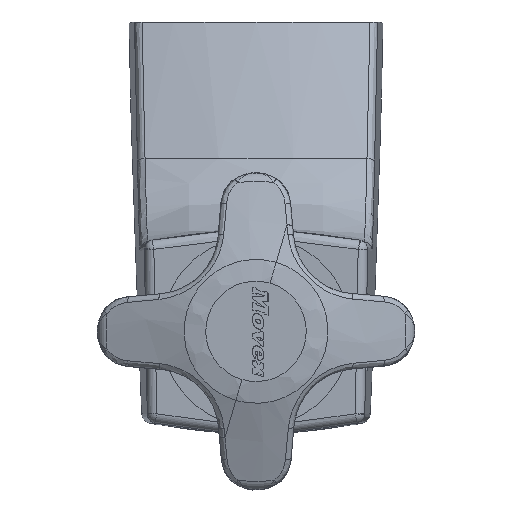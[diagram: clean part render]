
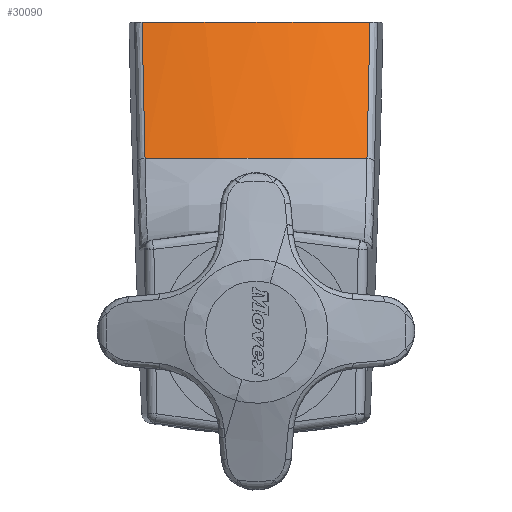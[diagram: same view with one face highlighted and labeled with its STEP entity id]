
A CAD part, top view. The second image highlights one B-rep face of the part: STEP entity #30090.
In plain terms, the highlighted free-form (B-spline) face has degree [4, 1] with [5, 2] control points.
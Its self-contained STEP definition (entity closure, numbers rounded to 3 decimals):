
#708 = VERTEX_POINT ( 'NONE', #31034 ) ;
#1320 = CARTESIAN_POINT ( 'NONE',  ( -9.053, 65., 99.659 ) ) ;
#2105 = CARTESIAN_POINT ( 'NONE',  ( 9.13, 43.548, 109.995 ) ) ;
#2285 = CARTESIAN_POINT ( 'NONE',  ( -9.13, 65., 99.991 ) ) ;
#2454 = CARTESIAN_POINT ( 'NONE',  ( -17.952, 43.548, 107.963 ) ) ;
#3842 = EDGE_CURVE ( 'NONE', #16605, #10255, #20461, .T. ) ;
#4290 = CARTESIAN_POINT ( 'NONE',  ( -17.952, 65., 97.96 ) ) ;
#4466 = CARTESIAN_POINT ( 'NONE',  ( 17.575, 47.839, 106.048 ) ) ;
#4561 = CARTESIAN_POINT ( 'NONE',  ( -3.567, 43.548, 110.401 ) ) ;
#4918 = B_SPLINE_CURVE_WITH_KNOTS ( 'NONE', 5,
 ( #26082, #10313, #9962, #4561, #12927, #7687 ),
 .UNSPECIFIED., .F., .F.,
 ( 6, 6 ),
 ( 0., 1. ),
 .UNSPECIFIED. ) ;
#7082 = CARTESIAN_POINT ( 'NONE',  ( 17.486, 43.548, 108.069 ) ) ;
#7687 = CARTESIAN_POINT ( 'NONE',  ( -17.486, 43.548, 108.069 ) ) ;
#8548 = CARTESIAN_POINT ( 'NONE',  ( 17.952, 65., 97.96 ) ) ;
#8995 = ORIENTED_EDGE ( 'NONE', *, *, #29090, .F. ) ;
#9194 = CARTESIAN_POINT ( 'NONE',  ( -17.638, 50.699, 104.7 ) ) ;
#9351 = CARTESIAN_POINT ( 'NONE',  ( -17.952, 65., 97.96 ) ) ;
#9962 = CARTESIAN_POINT ( 'NONE',  ( 3.606, 43.548, 110.398 ) ) ;
#10255 = VERTEX_POINT ( 'NONE', #9351 ) ;
#10313 = CARTESIAN_POINT ( 'NONE',  ( 10.674, 43.548, 109.595 ) ) ;
#10320 = CARTESIAN_POINT ( 'NONE',  ( 0., 43.548, 110.695 ) ) ;
#10822 = CARTESIAN_POINT ( 'NONE',  ( 9.053, 65., 99.659 ) ) ;
#11484 = ORIENTED_EDGE ( 'NONE', *, *, #29629, .T. ) ;
#11567 = ORIENTED_EDGE ( 'NONE', *, *, #19600, .T. ) ;
#11973 = CARTESIAN_POINT ( 'NONE',  ( -13.541, 65., 98.976 ) ) ;
#12730 = EDGE_CURVE ( 'NONE', #29410, #16605, #32322, .T. ) ;
#12927 = CARTESIAN_POINT ( 'NONE',  ( -10.649, 43.548, 109.601 ) ) ;
#14422 = CARTESIAN_POINT ( 'NONE',  ( -17.795, 57.85, 101.33 ) ) ;
#14981 = CARTESIAN_POINT ( 'NONE',  ( 17.952, 65., 97.96 ) ) ;
#15113 = CARTESIAN_POINT ( 'NONE',  ( 17.67, 52.129, 104.026 ) ) ;
#15212 = CARTESIAN_POINT ( 'NONE',  ( -17.952, 65., 97.96 ) ) ;
#15909 = CARTESIAN_POINT ( 'NONE',  ( 9.13, 65., 99.991 ) ) ;
#16254 = CARTESIAN_POINT ( 'NONE',  ( 13.541, 65., 98.976 ) ) ;
#16605 = VERTEX_POINT ( 'NONE', #28036 ) ;
#19600 = EDGE_CURVE ( 'NONE', #708, #29410, #26889, .T. ) ;
#19722 = CARTESIAN_POINT ( 'NONE',  ( -17.952, 65., 97.96 ) ) ;
#20461 = B_SPLINE_CURVE_WITH_KNOTS ( 'NONE', 4,
 ( #28299, #28122, #1320, #11973, #4290 ),
 .UNSPECIFIED., .F., .F.,
 ( 5, 5 ),
 ( 358.885, 376.991 ),
 .UNSPECIFIED. ) ;
#20652 = CARTESIAN_POINT ( 'NONE',  ( -17.486, 43.548, 108.069 ) ) ;
#21181 = FACE_OUTER_BOUND ( 'NONE', #21644, .T. ) ;
#21521 = CARTESIAN_POINT ( 'NONE',  ( 4.526, 65., 100. ) ) ;
#21644 = EDGE_LOOP ( 'NONE', ( #8995, #11567, #25640, #33303, #11484 ) ) ;
#22518 = CARTESIAN_POINT ( 'NONE',  ( -17.486, 43.548, 108.069 ) ) ;
#23257 = B_SPLINE_SURFACE_WITH_KNOTS ( 'NONE', 4, 1, ( 
 ( #2454, #15212 ),
 ( #31348, #2285 ),
 ( #10320, #26610 ),
 ( #2105, #15909 ),
 ( #28738, #31847 ) ),
 .UNSPECIFIED., .F., .F., .F.,
 ( 5, 5 ),
 ( 2, 2 ),
 ( 358.885, 395.097 ),
 ( 0., 1. ),
 .UNSPECIFIED. ) ;
#25307 = CARTESIAN_POINT ( 'NONE',  ( 17.952, 65., 97.96 ) ) ;
#25640 = ORIENTED_EDGE ( 'NONE', *, *, #12730, .T. ) ;
#25826 = CARTESIAN_POINT ( 'NONE',  ( 17.764, 56.419, 102.004 ) ) ;
#26082 = CARTESIAN_POINT ( 'NONE',  ( 17.486, 43.548, 108.069 ) ) ;
#26610 = CARTESIAN_POINT ( 'NONE',  ( 0., 65., 100.692 ) ) ;
#26616 = B_SPLINE_CURVE_WITH_KNOTS ( 'NONE', 3,
 ( #19722, #14422, #9194, #22518 ),
 .UNSPECIFIED., .F., .F.,
 ( 4, 4 ),
 ( 0., 33.512 ),
 .UNSPECIFIED. ) ;
#26889 = B_SPLINE_CURVE_WITH_KNOTS ( 'NONE', 5,
 ( #7082, #4466, #15113, #25826, #33850, #25307 ),
 .UNSPECIFIED., .F., .F.,
 ( 6, 6 ),
 ( 85.245, 108.964 ),
 .UNSPECIFIED. ) ;
#28036 = CARTESIAN_POINT ( 'NONE',  ( 0., 65., 100. ) ) ;
#28122 = CARTESIAN_POINT ( 'NONE',  ( -4.526, 65., 100. ) ) ;
#28299 = CARTESIAN_POINT ( 'NONE',  ( 0., 65., 100. ) ) ;
#28738 = CARTESIAN_POINT ( 'NONE',  ( 17.952, 43.548, 107.963 ) ) ;
#29090 = EDGE_CURVE ( 'NONE', #708, #32080, #4918, .T. ) ;
#29410 = VERTEX_POINT ( 'NONE', #14981 ) ;
#29629 = EDGE_CURVE ( 'NONE', #10255, #32080, #26616, .T. ) ;
#30090 = ADVANCED_FACE ( 'NONE', ( #21181 ), #23257, .T. ) ;
#31034 = CARTESIAN_POINT ( 'NONE',  ( 17.486, 43.548, 108.069 ) ) ;
#31348 = CARTESIAN_POINT ( 'NONE',  ( -9.13, 43.548, 109.995 ) ) ;
#31847 = CARTESIAN_POINT ( 'NONE',  ( 17.952, 65., 97.96 ) ) ;
#32080 = VERTEX_POINT ( 'NONE', #20652 ) ;
#32178 = CARTESIAN_POINT ( 'NONE',  ( 0., 65., 100. ) ) ;
#32322 = B_SPLINE_CURVE_WITH_KNOTS ( 'NONE', 4,
 ( #8548, #16254, #10822, #21521, #32178 ),
 .UNSPECIFIED., .F., .F.,
 ( 5, 5 ),
 ( 376.991, 395.097 ),
 .UNSPECIFIED. ) ;
#33303 = ORIENTED_EDGE ( 'NONE', *, *, #3842, .T. ) ;
#33850 = CARTESIAN_POINT ( 'NONE',  ( 17.858, 60.71, 99.982 ) ) ;
